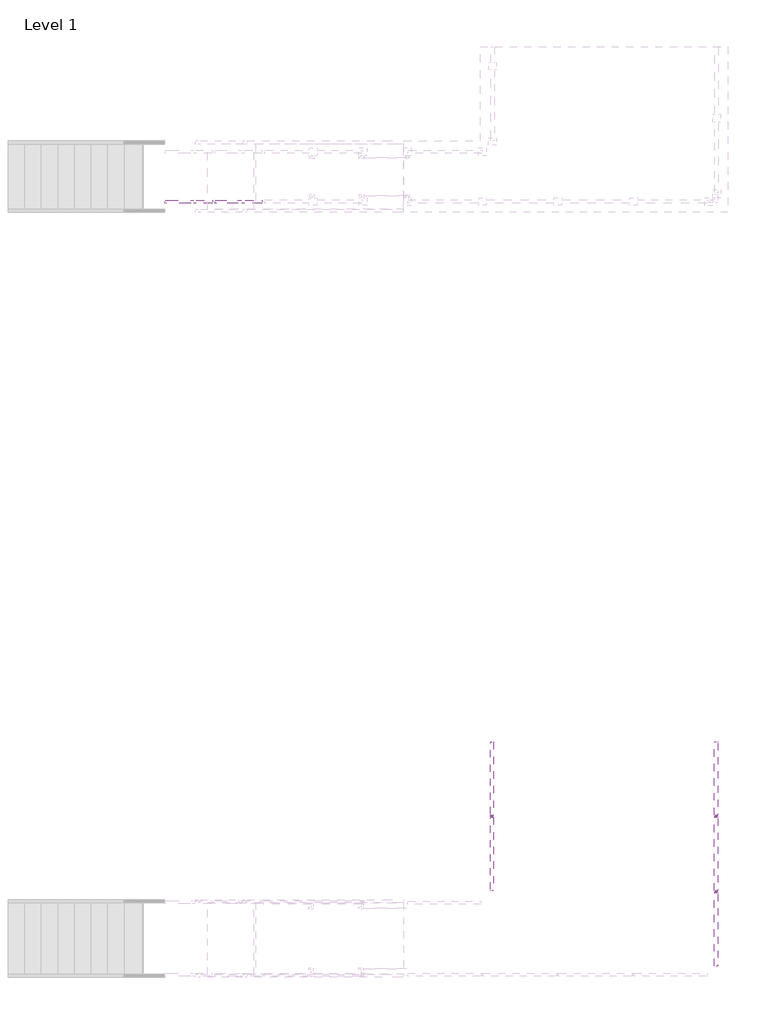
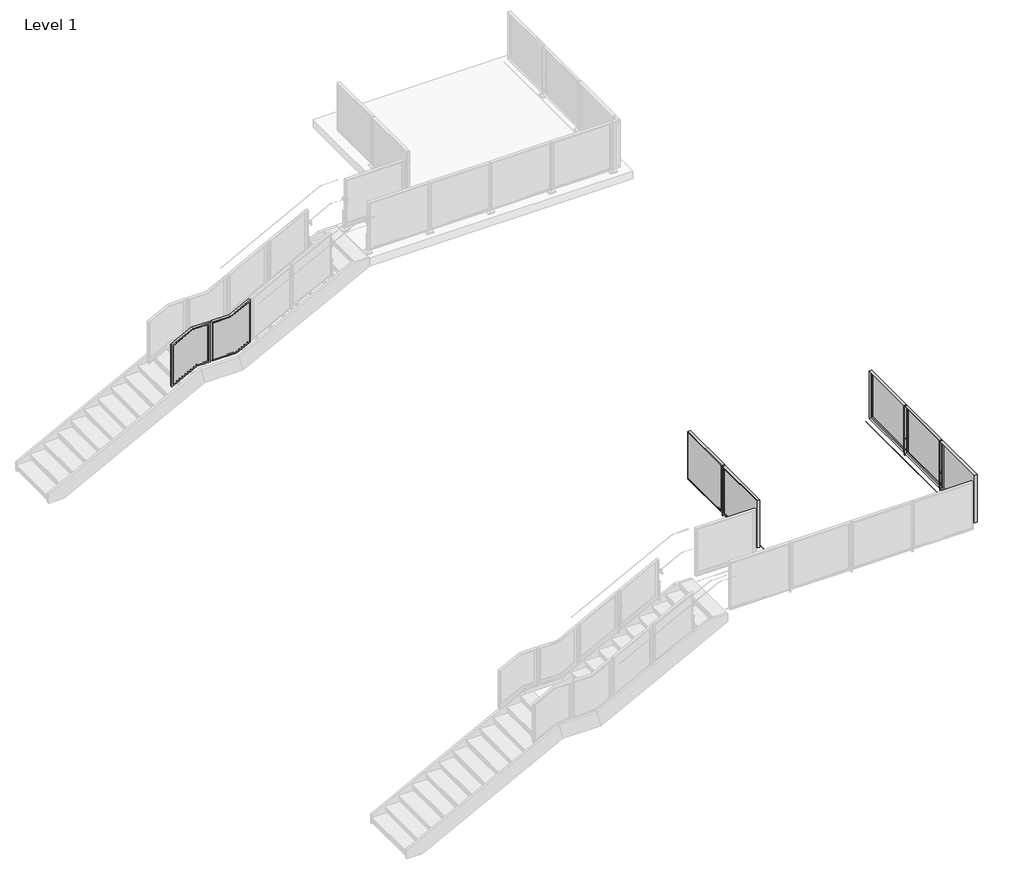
# One storey, part 13 of 37: 4 railings.
"""IFC4 building model written with IfcOpenShell, lengths in millimetres."""

from ifc_helpers import new_model, si_unit, point, frame, frame_2d, origin, place, context, project, spatial, polyline, circle_curve, trimmed, segment, composite_curve, outline, extrude, faceted_brep, transform, mapped, element, save
from ifc_brep_helpers import plane_surface, cylinder_surface, advanced_brep
from components import baluster_landing_panel_viva_frame_lower_standard_pp01_a1165722, baluster_landing_panel_viva_frame_upper_standard_pp01_df324889

model = new_model("IFC4")

# Units and contexts
model_context = context("Model", 3, world=origin())
ifc_project = project(units=[si_unit("LENGTHUNIT", "METRE", prefix="MILLI")], contexts=[model_context])

# Site, building, storey
site = spatial("IfcSite", under=ifc_project)
building = spatial("IfcBuilding", under=site)
storey = spatial("IfcBuildingStorey", under=building, Name="Level 1", Elevation=0.0)

# Railings
placement = place(None, origin())
baluster_landing_panel_viva_frame_lower_standard_pp01_shape = baluster_landing_panel_viva_frame_lower_standard_pp01_a1165722(model_context)
element("IfcRailing", 1, ObjectType="Baluster-Landing-Panel-VIVA-FRAME-Lower : Standard_PP01", at=placement, inside=storey, context=model_context, shape_type="MappedRepresentation", body=[
    mapped(baluster_landing_panel_viva_frame_lower_standard_pp01_shape, transform((-11484.6935302, -18462.3569876, 1733.4542898), x_axis=(0.0, 1.0, 0.0), y_axis=(-1.0, 0.0, 0.0), z_axis=(0.0, 0.0, 1.0))),
])
baluster_landing_panel_viva_frame_upper_standard_pp01_shape = baluster_landing_panel_viva_frame_upper_standard_pp01_df324889(model_context)
element("IfcRailing", 2, ObjectType="Baluster-Landing-Panel-VIVA-FRAME-Upper : Standard_PP01", at=placement, inside=storey, context=model_context, shape_type="MappedRepresentation", body=[
    mapped(baluster_landing_panel_viva_frame_upper_standard_pp01_shape, transform((-10816.5849384, -18509.9739095, 1736.2385299), x_axis=(0.0, 1.0, 0.0), y_axis=(-1.0, 0.0, 0.0), z_axis=(0.0, 0.0, 1.0))),
])
element("IfcRailing", 3, ObjectType="Metal-Panel-VIVA-FRAME-Slab-Top-Weld-Straight", at=placement, inside=storey, context=model_context, shape_type="SolidModel", body=[
    extrude(outline(composite_curve([segment(trimmed(circle_curve(frame_2d((3047.746, -5892.5438448)), 0.254), [point((3047.746, -5892.2898448))], [point((3047.746, -5892.7978448))], False, "CARTESIAN"), True, "CONTINUOUS"), segment(trimmed(circle_curve(frame_2d((3047.746, -5892.5438448)), 0.254), [point((3047.746, -5892.7978448))], [point((3047.746, -5892.2898448))], False, "CARTESIAN"), True, "CONTINUOUS")], self_intersect=False)), frame((0.0, -30035.206939, 0.0), z_axis=(0.0, 1.0, 0.0), x_axis=(0.0, 0.0, 1.0)), (0.0, 0.0, 1.0), 2540.0),
    extrude(outline(composite_curve([segment(trimmed(circle_curve(frame_2d((3047.746, -5892.5438448)), 0.254), [point((3047.746, -5892.2898448))], [point((3047.746, -5892.7978448))], False, "CARTESIAN"), True, "CONTINUOUS"), segment(trimmed(circle_curve(frame_2d((3047.746, -5892.5438448)), 0.254), [point((3047.746, -5892.7978448))], [point((3047.746, -5892.2898448))], False, "CARTESIAN"), True, "CONTINUOUS")], self_intersect=False)), frame((0.0, -30035.206939, 0.0), z_axis=(0.0, 1.0, 0.0), x_axis=(0.0, 0.0, 1.0)), (0.0, 0.0, 1.0), 2540.0),
    extrude(outline(polyline([(-6015.3542448, -28724.380482), (-6015.3542448, -27536.0333959), (-6012.3542448, -27536.0333959), (-6012.3542448, -28724.380482), (-6015.3542448, -28724.380482)])), frame((0.0, 0.0, 3124.1959569), z_axis=(0.0, 0.0, 1.0), x_axis=(1.0, 0.0, 0.0)), (0.0, 0.0, 1.0), 990.5826861),
    faceted_brep([(-6015.3542448, -28749.780482, 4140.1786431), (-6015.3542448, -27510.6333959, 4140.1786431), (-6015.3542448, -27510.6333959, 3098.7959569), (-6015.3542448, -28749.780482, 3098.7959569), (-6015.3542448, -28724.380482, 4114.7786431), (-6015.3542448, -28724.380482, 3124.1959569), (-6015.3542448, -27536.0333959, 3124.1959569), (-6015.3542448, -27536.0333959, 4114.7786431), (-6012.3542448, -28724.380482, 3124.1959569), (-6012.3542448, -27536.0333959, 3124.1959569), (-6012.3542448, -27536.0333959, 4114.7786431), (-6012.3542448, -28724.380482, 4114.7786431), (-5961.5542448, -28743.786082, 3104.7903569), (-5961.5542448, -27516.6277959, 3104.7903569), (-5992.3644448, -27516.6277959, 3104.7903569), (-5992.3644448, -28743.786082, 3104.7903569), (-5961.5542448, -27516.6277959, 4134.1842431), (-5992.3644448, -27516.6277959, 4134.1842431), (-5992.3644448, -28743.786082, 4134.1842431), (-5961.5542448, -28743.786082, 4134.1842431), (-5961.5542448, -27510.6333959, 3098.7959569), (-5961.5542448, -27510.6333959, 4140.1786431), (-5961.5542448, -28749.780482, 4140.1786431), (-5961.5542448, -28749.780482, 3098.7959569), (-6012.3542448, -28698.980482, 4089.3786431), (-6012.3542448, -28698.980482, 3149.5959569), (-6012.3542448, -27561.4333959, 3149.5959569), (-6012.3542448, -27561.4333959, 4089.3786431), (-5992.3644448, -27561.4333959, 3149.5959569), (-5992.3644448, -28698.980482, 3149.5959569), (-5992.3644448, -28698.980482, 4089.3786431), (-5992.3644448, -27561.4333959, 4089.3786431)], [[[0, 1, 2, 3], [4, 5, 6, 7]], [[5, 8, 9, 6]], [[6, 9, 10, 7]], [[7, 10, 11, 4]], [[4, 11, 8, 5]], [[12, 13, 14, 15]], [[13, 16, 17, 14]], [[15, 18, 19, 12]], [[20, 21, 22, 23], [12, 19, 16, 13]], [[23, 22, 0, 3]], [[23, 3, 2, 20]], [[2, 1, 21, 20]], [[22, 21, 1, 0]], [[11, 10, 9, 8], [24, 25, 26, 27]], [[14, 17, 18, 15], [28, 29, 30, 31]], [[18, 17, 16, 19]], [[27, 31, 30, 24]], [[26, 28, 31, 27]], [[25, 29, 28, 26]], [[24, 30, 29, 25]]]),
    advanced_brep(
    [(-5988.4542448, -28791.394339, 3178.1496), (-5988.4542448, -28791.394339, 3187.7), (-5988.4542448, -28791.394339, 3197.2504), (-5988.4542448, -28786.619139, 3178.1496), (-5988.4542448, -28786.619139, 3197.2504), (-5988.4542448, -28786.619139, 3182.9248), (-5988.4542448, -28786.619139, 3192.4752), (-5988.4542448, -28743.794739, 3182.9248), (-5988.4542448, -28743.794739, 3192.4752), (-5988.4542448, -28743.794739, 3178.1496), (-5988.4542448, -28743.794739, 3197.2504), (-5988.4542448, -28739.019539, 3178.1496), (-5988.4542448, -28739.019539, 3197.2504), (-5988.4542448, -28739.019539, 3187.7)],
    [
        (0, 1),
        (1, 2),
        (2, 0, circle_curve(frame((-5988.4542448, -28791.394339, 3187.7), z_axis=(0.0, -1.0, 0.0), x_axis=(0.0, 0.0, 1.0)), 9.5504)),
        (0, 2, circle_curve(frame((-5988.4542448, -28791.394339, 3187.7), z_axis=(0.0, -1.0, 0.0), x_axis=(0.0, 0.0, 1.0)), 9.5504)),
        (3, 0),
        (2, 4),
        (4, 3, circle_curve(frame((-5988.4542448, -28786.619139, 3187.7), z_axis=(0.0, -1.0, 0.0), x_axis=(0.0, 0.0, 1.0)), 9.5504)),
        (3, 4, circle_curve(frame((-5988.4542448, -28786.619139, 3187.7), z_axis=(0.0, -1.0, 0.0), x_axis=(0.0, 0.0, 1.0)), 9.5504)),
        (5, 3),
        (4, 6),
        (6, 5, circle_curve(frame((-5988.4542448, -28786.619139, 3187.7), z_axis=(0.0, -1.0, 0.0), x_axis=(0.0, 0.0, 1.0)), 4.7752)),
        (5, 6, circle_curve(frame((-5988.4542448, -28786.619139, 3187.7), z_axis=(0.0, -1.0, 0.0), x_axis=(0.0, 0.0, 1.0)), 4.7752)),
        (7, 5),
        (6, 8),
        (8, 7, circle_curve(frame((-5988.4542448, -28743.794739, 3187.7), z_axis=(0.0, -1.0, 0.0), x_axis=(0.0, 0.0, 1.0)), 4.7752)),
        (7, 8, circle_curve(frame((-5988.4542448, -28743.794739, 3187.7), z_axis=(0.0, -1.0, 0.0), x_axis=(0.0, 0.0, 1.0)), 4.7752)),
        (9, 7),
        (8, 10),
        (10, 9, circle_curve(frame((-5988.4542448, -28743.794739, 3187.7), z_axis=(0.0, -1.0, 0.0), x_axis=(0.0, 0.0, 1.0)), 9.5504)),
        (9, 10, circle_curve(frame((-5988.4542448, -28743.794739, 3187.7), z_axis=(0.0, -1.0, 0.0), x_axis=(0.0, 0.0, 1.0)), 9.5504)),
        (11, 9),
        (10, 12),
        (12, 11, circle_curve(frame((-5988.4542448, -28739.019539, 3187.7), z_axis=(0.0, -1.0, 0.0), x_axis=(0.0, 0.0, 1.0)), 9.5504)),
        (11, 12, circle_curve(frame((-5988.4542448, -28739.019539, 3187.7), z_axis=(0.0, -1.0, 0.0), x_axis=(0.0, 0.0, 1.0)), 9.5504)),
        (13, 11),
        (12, 13),
    ],
    [
        plane_surface(frame((-5988.4542448, -28791.394339, 3187.7), z_axis=(0.0, -1.0, 0.0), x_axis=(0.0, 0.0, 1.0))),
        cylinder_surface(frame((-5988.4542448, -32182.9746961, 3187.7), z_axis=(0.0, 1.0, 0.0), x_axis=(0.0, 0.0, 1.0)), 9.5504),
        plane_surface(frame((-5988.4542448, -28786.619139, 3187.7), z_axis=(0.0, 1.0, 0.0), x_axis=(0.0, 0.0, 1.0))),
        cylinder_surface(frame((-5988.4542448, -32182.9746961, 3187.7), z_axis=(0.0, 1.0, 0.0), x_axis=(0.0, 0.0, 1.0)), 4.7752),
        plane_surface(frame((-5988.4542448, -28743.794739, 3187.7), z_axis=(0.0, -1.0, 0.0), x_axis=(0.0, 0.0, 1.0))),
        plane_surface(frame((-5988.4542448, -28739.019539, 3187.7), z_axis=(0.0, 1.0, 0.0), x_axis=(0.0, 0.0, 1.0))),
    ],
    [
        (0, [[1, 2, 3]]),
        (0, [[-2, -1, 4]]),
        (1, [[5, -3, 6, 7]]),
        (1, [[-6, -4, -5, 8]]),
        (2, [[9, -7, 10, 11]]),
        (2, [[-10, -8, -9, 12]]),
        (3, [[13, -11, 14, 15]]),
        (3, [[-14, -12, -13, 16]]),
        (4, [[17, -15, 18, 19]]),
        (4, [[-18, -16, -17, 20]]),
        (1, [[21, -19, 22, 23]]),
        (1, [[-22, -20, -21, 24]]),
        (5, [[25, -23, 26]]),
        (5, [[-26, -24, -25]]),
    ],
),
    advanced_brep(
    [(-5988.4542448, -28791.394339, 3419.4496), (-5988.4542448, -28791.394339, 3429.0), (-5988.4542448, -28791.394339, 3438.5504), (-5988.4542448, -28786.619139, 3419.4496), (-5988.4542448, -28786.619139, 3438.5504), (-5988.4542448, -28786.619139, 3424.2248), (-5988.4542448, -28786.619139, 3433.7752), (-5988.4542448, -28743.794739, 3424.2248), (-5988.4542448, -28743.794739, 3433.7752), (-5988.4542448, -28743.794739, 3419.4496), (-5988.4542448, -28743.794739, 3438.5504), (-5988.4542448, -28739.019539, 3419.4496), (-5988.4542448, -28739.019539, 3438.5504), (-5988.4542448, -28739.019539, 3429.0)],
    [
        (0, 1),
        (1, 2),
        (2, 0, circle_curve(frame((-5988.4542448, -28791.394339, 3429.0), z_axis=(0.0, -1.0, 0.0), x_axis=(0.0, 0.0, 1.0)), 9.5504)),
        (0, 2, circle_curve(frame((-5988.4542448, -28791.394339, 3429.0), z_axis=(0.0, -1.0, 0.0), x_axis=(0.0, 0.0, 1.0)), 9.5504)),
        (3, 0),
        (2, 4),
        (4, 3, circle_curve(frame((-5988.4542448, -28786.619139, 3429.0), z_axis=(0.0, -1.0, 0.0), x_axis=(0.0, 0.0, 1.0)), 9.5504)),
        (3, 4, circle_curve(frame((-5988.4542448, -28786.619139, 3429.0), z_axis=(0.0, -1.0, 0.0), x_axis=(0.0, 0.0, 1.0)), 9.5504)),
        (5, 3),
        (4, 6),
        (6, 5, circle_curve(frame((-5988.4542448, -28786.619139, 3429.0), z_axis=(0.0, -1.0, 0.0), x_axis=(0.0, 0.0, 1.0)), 4.7752)),
        (5, 6, circle_curve(frame((-5988.4542448, -28786.619139, 3429.0), z_axis=(0.0, -1.0, 0.0), x_axis=(0.0, 0.0, 1.0)), 4.7752)),
        (7, 5),
        (6, 8),
        (8, 7, circle_curve(frame((-5988.4542448, -28743.794739, 3429.0), z_axis=(0.0, -1.0, 0.0), x_axis=(0.0, 0.0, 1.0)), 4.7752)),
        (7, 8, circle_curve(frame((-5988.4542448, -28743.794739, 3429.0), z_axis=(0.0, -1.0, 0.0), x_axis=(0.0, 0.0, 1.0)), 4.7752)),
        (9, 7),
        (8, 10),
        (10, 9, circle_curve(frame((-5988.4542448, -28743.794739, 3429.0), z_axis=(0.0, -1.0, 0.0), x_axis=(0.0, 0.0, 1.0)), 9.5504)),
        (9, 10, circle_curve(frame((-5988.4542448, -28743.794739, 3429.0), z_axis=(0.0, -1.0, 0.0), x_axis=(0.0, 0.0, 1.0)), 9.5504)),
        (11, 9),
        (10, 12),
        (12, 11, circle_curve(frame((-5988.4542448, -28739.019539, 3429.0), z_axis=(0.0, -1.0, 0.0), x_axis=(0.0, 0.0, 1.0)), 9.5504)),
        (11, 12, circle_curve(frame((-5988.4542448, -28739.019539, 3429.0), z_axis=(0.0, -1.0, 0.0), x_axis=(0.0, 0.0, 1.0)), 9.5504)),
        (13, 11),
        (12, 13),
    ],
    [
        plane_surface(frame((-5988.4542448, -28791.394339, 3429.0), z_axis=(0.0, -1.0, 0.0), x_axis=(0.0, 0.0, 1.0))),
        cylinder_surface(frame((-5988.4542448, -32182.9746961, 3429.0), z_axis=(0.0, 1.0, 0.0), x_axis=(0.0, 0.0, 1.0)), 9.5504),
        plane_surface(frame((-5988.4542448, -28786.619139, 3429.0), z_axis=(0.0, 1.0, 0.0), x_axis=(0.0, 0.0, 1.0))),
        cylinder_surface(frame((-5988.4542448, -32182.9746961, 3429.0), z_axis=(0.0, 1.0, 0.0), x_axis=(0.0, 0.0, 1.0)), 4.7752),
        plane_surface(frame((-5988.4542448, -28743.794739, 3429.0), z_axis=(0.0, -1.0, 0.0), x_axis=(0.0, 0.0, 1.0))),
        plane_surface(frame((-5988.4542448, -28739.019539, 3429.0), z_axis=(0.0, 1.0, 0.0), x_axis=(0.0, 0.0, 1.0))),
    ],
    [
        (0, [[1, 2, 3]]),
        (0, [[-2, -1, 4]]),
        (1, [[5, -3, 6, 7]]),
        (1, [[-6, -4, -5, 8]]),
        (2, [[9, -7, 10, 11]]),
        (2, [[-10, -8, -9, 12]]),
        (3, [[13, -11, 14, 15]]),
        (3, [[-14, -12, -13, 16]]),
        (4, [[17, -15, 18, 19]]),
        (4, [[-18, -16, -17, 20]]),
        (1, [[21, -19, 22, 23]]),
        (1, [[-22, -20, -21, 24]]),
        (5, [[25, -23, 26]]),
        (5, [[-26, -24, -25]]),
    ],
),
    extrude(outline(polyline([(-5966.2292448, -28773.1465306), (-6010.6792448, -28773.1465306), (-6010.6792448, -28757.2673473), (-5966.2292448, -28757.2673473), (-5966.2292448, -28773.1465306)])), frame((0.0, 0.0, 3048.0), z_axis=(0.0, 0.0, 1.0), x_axis=(1.0, 0.0, 0.0)), (0.0, 0.0, 1.0), 406.4),
    extrude(outline(polyline([(-6015.3542448, -29994.380482), (-6015.3542448, -28806.0333959), (-6012.3542448, -28806.0333959), (-6012.3542448, -29994.380482), (-6015.3542448, -29994.380482)])), frame((0.0, 0.0, 3124.1959569), z_axis=(0.0, 0.0, 1.0), x_axis=(1.0, 0.0, 0.0)), (0.0, 0.0, 1.0), 990.5826861),
    faceted_brep([(-6015.3542448, -30019.780482, 4140.1786431), (-6015.3542448, -28780.6333959, 4140.1786431), (-6015.3542448, -28780.6333959, 3098.7959569), (-6015.3542448, -30019.780482, 3098.7959569), (-6015.3542448, -29994.380482, 4114.7786431), (-6015.3542448, -29994.380482, 3124.1959569), (-6015.3542448, -28806.0333959, 3124.1959569), (-6015.3542448, -28806.0333959, 4114.7786431), (-6012.3542448, -29994.380482, 3124.1959569), (-6012.3542448, -28806.0333959, 3124.1959569), (-6012.3542448, -28806.0333959, 4114.7786431), (-6012.3542448, -29994.380482, 4114.7786431), (-5961.5542448, -30013.786082, 3104.7903569), (-5961.5542448, -28786.6277959, 3104.7903569), (-5992.3644448, -28786.6277959, 3104.7903569), (-5992.3644448, -30013.786082, 3104.7903569), (-5961.5542448, -28786.6277959, 4134.1842431), (-5992.3644448, -28786.6277959, 4134.1842431), (-5992.3644448, -30013.786082, 4134.1842431), (-5961.5542448, -30013.786082, 4134.1842431), (-5961.5542448, -28780.6333959, 3098.7959569), (-5961.5542448, -28780.6333959, 4140.1786431), (-5961.5542448, -30019.780482, 4140.1786431), (-5961.5542448, -30019.780482, 3098.7959569), (-6012.3542448, -29968.980482, 4089.3786431), (-6012.3542448, -29968.980482, 3149.5959569), (-6012.3542448, -28831.4333959, 3149.5959569), (-6012.3542448, -28831.4333959, 4089.3786431), (-5992.3644448, -28831.4333959, 3149.5959569), (-5992.3644448, -29968.980482, 3149.5959569), (-5992.3644448, -29968.980482, 4089.3786431), (-5992.3644448, -28831.4333959, 4089.3786431)], [[[0, 1, 2, 3], [4, 5, 6, 7]], [[5, 8, 9, 6]], [[6, 9, 10, 7]], [[7, 10, 11, 4]], [[4, 11, 8, 5]], [[12, 13, 14, 15]], [[13, 16, 17, 14]], [[15, 18, 19, 12]], [[20, 21, 22, 23], [12, 19, 16, 13]], [[23, 22, 0, 3]], [[23, 3, 2, 20]], [[2, 1, 21, 20]], [[22, 21, 1, 0]], [[11, 10, 9, 8], [24, 25, 26, 27]], [[14, 17, 18, 15], [28, 29, 30, 31]], [[18, 17, 16, 19]], [[27, 31, 30, 24]], [[26, 28, 31, 27]], [[25, 29, 28, 26]], [[24, 30, 29, 25]]]),
])
element("IfcRailing", 4, ObjectType="Metal-Panel-VIVA-FRAME-Slab-Top-Weld-Straight", at=placement, inside=storey, context=model_context, shape_type="SolidModel", body=[
    extrude(outline(composite_curve([segment(trimmed(circle_curve(frame_2d((3047.746, -2309.2266913)), 0.254), [point((3047.746, -2308.9726913))], [point((3047.746, -2309.4806913))], False, "CARTESIAN"), True, "CONTINUOUS"), segment(trimmed(circle_curve(frame_2d((3047.746, -2309.2266913)), 0.254), [point((3047.746, -2309.4806913))], [point((3047.746, -2308.9726913))], False, "CARTESIAN"), True, "CONTINUOUS")], self_intersect=False)), frame((0.0, -31301.8140064, 0.0), z_axis=(0.0, 1.0, 0.0), x_axis=(0.0, 0.0, 1.0)), (0.0, 0.0, 1.0), 3810.0),
    extrude(outline(composite_curve([segment(trimmed(circle_curve(frame_2d((3047.746, -2309.2266913)), 0.254), [point((3047.746, -2308.9726913))], [point((3047.746, -2309.4806913))], False, "CARTESIAN"), True, "CONTINUOUS"), segment(trimmed(circle_curve(frame_2d((3047.746, -2309.2266913)), 0.254), [point((3047.746, -2309.4806913))], [point((3047.746, -2308.9726913))], False, "CARTESIAN"), True, "CONTINUOUS")], self_intersect=False)), frame((0.0, -31301.8140064, 0.0), z_axis=(0.0, 1.0, 0.0), x_axis=(0.0, 0.0, 1.0)), (0.0, 0.0, 1.0), 3810.0),
    extrude(outline(polyline([(-2186.4162913, -28720.9875494), (-2189.4162913, -28720.9875494), (-2189.4162913, -27532.6404633), (-2186.4162913, -27532.6404633), (-2186.4162913, -28720.9875494)])), frame((0.0, 0.0, 3124.1959569), z_axis=(0.0, 0.0, 1.0), x_axis=(1.0, 0.0, 0.0)), (0.0, 0.0, 1.0), 990.5826861),
    faceted_brep([(-2186.4162913, -28746.3875494, 4140.1786431), (-2186.4162913, -28746.3875494, 3098.7959569), (-2186.4162913, -27507.2404633, 3098.7959569), (-2186.4162913, -27507.2404633, 4140.1786431), (-2186.4162913, -28720.9875494, 4114.7786431), (-2186.4162913, -27532.6404633, 4114.7786431), (-2186.4162913, -27532.6404633, 3124.1959569), (-2186.4162913, -28720.9875494, 3124.1959569), (-2189.4162913, -27532.6404633, 3124.1959569), (-2189.4162913, -28720.9875494, 3124.1959569), (-2189.4162913, -27532.6404633, 4114.7786431), (-2189.4162913, -28720.9875494, 4114.7786431), (-2240.2162913, -28740.3931494, 3104.7903569), (-2209.4060913, -28740.3931494, 3104.7903569), (-2209.4060913, -27513.2348633, 3104.7903569), (-2240.2162913, -27513.2348633, 3104.7903569), (-2209.4060913, -27513.2348633, 4134.1842431), (-2240.2162913, -27513.2348633, 4134.1842431), (-2240.2162913, -28740.3931494, 4134.1842431), (-2209.4060913, -28740.3931494, 4134.1842431), (-2240.2162913, -27507.2404633, 3098.7959569), (-2240.2162913, -28746.3875494, 3098.7959569), (-2240.2162913, -28746.3875494, 4140.1786431), (-2240.2162913, -27507.2404633, 4140.1786431), (-2189.4162913, -28695.5875494, 4089.3786431), (-2189.4162913, -27558.0404633, 4089.3786431), (-2189.4162913, -27558.0404633, 3149.5959569), (-2189.4162913, -28695.5875494, 3149.5959569), (-2209.4060913, -27558.0404633, 3149.5959569), (-2209.4060913, -27558.0404633, 4089.3786431), (-2209.4060913, -28695.5875494, 4089.3786431), (-2209.4060913, -28695.5875494, 3149.5959569)], [[[0, 1, 2, 3], [4, 5, 6, 7]], [[7, 6, 8, 9]], [[6, 5, 10, 8]], [[5, 4, 11, 10]], [[4, 7, 9, 11]], [[12, 13, 14, 15]], [[15, 14, 16, 17]], [[13, 12, 18, 19]], [[20, 21, 22, 23], [12, 15, 17, 18]], [[21, 1, 0, 22]], [[21, 20, 2, 1]], [[2, 20, 23, 3]], [[22, 0, 3, 23]], [[11, 9, 8, 10], [24, 25, 26, 27]], [[14, 13, 19, 16], [28, 29, 30, 31]], [[19, 18, 17, 16]], [[25, 24, 30, 29]], [[26, 25, 29, 28]], [[27, 26, 28, 31]], [[24, 27, 31, 30]]]),
    advanced_brep(
    [(-2213.3162913, -28788.0014064, 3178.1496), (-2213.3162913, -28788.0014064, 3197.2504), (-2213.3162913, -28788.0014064, 3187.7), (-2213.3162913, -28783.2262064, 3178.1496), (-2213.3162913, -28783.2262064, 3197.2504), (-2213.3162913, -28783.2262064, 3182.9248), (-2213.3162913, -28783.2262064, 3192.4752), (-2213.3162913, -28740.4018064, 3182.9248), (-2213.3162913, -28740.4018064, 3192.4752), (-2213.3162913, -28740.4018064, 3178.1496), (-2213.3162913, -28740.4018064, 3197.2504), (-2213.3162913, -28735.6266064, 3178.1496), (-2213.3162913, -28735.6266064, 3197.2504), (-2213.3162913, -28735.6266064, 3187.7)],
    [
        (0, 1, circle_curve(frame((-2213.3162913, -28788.0014064, 3187.7), z_axis=(0.0, -1.0, 0.0), x_axis=(0.0, 0.0, 1.0)), 9.5504)),
        (1, 2),
        (2, 0),
        (1, 0, circle_curve(frame((-2213.3162913, -28788.0014064, 3187.7), z_axis=(0.0, -1.0, 0.0), x_axis=(0.0, 0.0, 1.0)), 9.5504)),
        (3, 4, circle_curve(frame((-2213.3162913, -28783.2262064, 3187.7), z_axis=(0.0, -1.0, 0.0), x_axis=(0.0, 0.0, 1.0)), 9.5504)),
        (4, 1),
        (0, 3),
        (4, 3, circle_curve(frame((-2213.3162913, -28783.2262064, 3187.7), z_axis=(0.0, -1.0, 0.0), x_axis=(0.0, 0.0, 1.0)), 9.5504)),
        (5, 6, circle_curve(frame((-2213.3162913, -28783.2262064, 3187.7), z_axis=(0.0, -1.0, 0.0), x_axis=(0.0, 0.0, 1.0)), 4.7752)),
        (6, 4),
        (3, 5),
        (6, 5, circle_curve(frame((-2213.3162913, -28783.2262064, 3187.7), z_axis=(0.0, -1.0, 0.0), x_axis=(0.0, 0.0, 1.0)), 4.7752)),
        (7, 8, circle_curve(frame((-2213.3162913, -28740.4018064, 3187.7), z_axis=(0.0, -1.0, 0.0), x_axis=(0.0, 0.0, 1.0)), 4.7752)),
        (8, 6),
        (5, 7),
        (8, 7, circle_curve(frame((-2213.3162913, -28740.4018064, 3187.7), z_axis=(0.0, -1.0, 0.0), x_axis=(0.0, 0.0, 1.0)), 4.7752)),
        (9, 10, circle_curve(frame((-2213.3162913, -28740.4018064, 3187.7), z_axis=(0.0, -1.0, 0.0), x_axis=(0.0, 0.0, 1.0)), 9.5504)),
        (10, 8),
        (7, 9),
        (10, 9, circle_curve(frame((-2213.3162913, -28740.4018064, 3187.7), z_axis=(0.0, -1.0, 0.0), x_axis=(0.0, 0.0, 1.0)), 9.5504)),
        (11, 12, circle_curve(frame((-2213.3162913, -28735.6266064, 3187.7), z_axis=(0.0, -1.0, 0.0), x_axis=(0.0, 0.0, 1.0)), 9.5504)),
        (12, 10),
        (9, 11),
        (12, 11, circle_curve(frame((-2213.3162913, -28735.6266064, 3187.7), z_axis=(0.0, -1.0, 0.0), x_axis=(0.0, 0.0, 1.0)), 9.5504)),
        (13, 12),
        (11, 13),
    ],
    [
        plane_surface(frame((-2213.3162913, -28788.0014064, 3187.7), z_axis=(0.0, -1.0, 0.0), x_axis=(0.0, 0.0, 1.0))),
        cylinder_surface(frame((-2213.3162913, -32179.5817635, 3187.7), z_axis=(0.0, 1.0, 0.0), x_axis=(0.0, 0.0, 1.0)), 9.5504),
        plane_surface(frame((-2213.3162913, -28783.2262064, 3187.7), z_axis=(0.0, 1.0, 0.0), x_axis=(0.0, 0.0, 1.0))),
        cylinder_surface(frame((-2213.3162913, -32179.5817635, 3187.7), z_axis=(0.0, 1.0, 0.0), x_axis=(0.0, 0.0, 1.0)), 4.7752),
        plane_surface(frame((-2213.3162913, -28740.4018064, 3187.7), z_axis=(0.0, -1.0, 0.0), x_axis=(0.0, 0.0, 1.0))),
        plane_surface(frame((-2213.3162913, -28735.6266064, 3187.7), z_axis=(0.0, 1.0, 0.0), x_axis=(0.0, 0.0, 1.0))),
    ],
    [
        (0, [[1, 2, 3]]),
        (0, [[4, -3, -2]]),
        (1, [[5, 6, -1, 7]]),
        (1, [[8, -7, -4, -6]]),
        (2, [[9, 10, -5, 11]]),
        (2, [[12, -11, -8, -10]]),
        (3, [[13, 14, -9, 15]]),
        (3, [[16, -15, -12, -14]]),
        (4, [[17, 18, -13, 19]]),
        (4, [[20, -19, -16, -18]]),
        (1, [[21, 22, -17, 23]]),
        (1, [[24, -23, -20, -22]]),
        (5, [[25, -21, 26]]),
        (5, [[-26, -24, -25]]),
    ],
),
    advanced_brep(
    [(-2213.3162913, -28788.0014064, 3419.4496), (-2213.3162913, -28788.0014064, 3438.5504), (-2213.3162913, -28788.0014064, 3429.0), (-2213.3162913, -28783.2262064, 3419.4496), (-2213.3162913, -28783.2262064, 3438.5504), (-2213.3162913, -28783.2262064, 3424.2248), (-2213.3162913, -28783.2262064, 3433.7752), (-2213.3162913, -28740.4018064, 3424.2248), (-2213.3162913, -28740.4018064, 3433.7752), (-2213.3162913, -28740.4018064, 3419.4496), (-2213.3162913, -28740.4018064, 3438.5504), (-2213.3162913, -28735.6266064, 3419.4496), (-2213.3162913, -28735.6266064, 3438.5504), (-2213.3162913, -28735.6266064, 3429.0)],
    [
        (0, 1, circle_curve(frame((-2213.3162913, -28788.0014064, 3429.0), z_axis=(0.0, -1.0, 0.0), x_axis=(0.0, 0.0, 1.0)), 9.5504)),
        (1, 2),
        (2, 0),
        (1, 0, circle_curve(frame((-2213.3162913, -28788.0014064, 3429.0), z_axis=(0.0, -1.0, 0.0), x_axis=(0.0, 0.0, 1.0)), 9.5504)),
        (3, 4, circle_curve(frame((-2213.3162913, -28783.2262064, 3429.0), z_axis=(0.0, -1.0, 0.0), x_axis=(0.0, 0.0, 1.0)), 9.5504)),
        (4, 1),
        (0, 3),
        (4, 3, circle_curve(frame((-2213.3162913, -28783.2262064, 3429.0), z_axis=(0.0, -1.0, 0.0), x_axis=(0.0, 0.0, 1.0)), 9.5504)),
        (5, 6, circle_curve(frame((-2213.3162913, -28783.2262064, 3429.0), z_axis=(0.0, -1.0, 0.0), x_axis=(0.0, 0.0, 1.0)), 4.7752)),
        (6, 4),
        (3, 5),
        (6, 5, circle_curve(frame((-2213.3162913, -28783.2262064, 3429.0), z_axis=(0.0, -1.0, 0.0), x_axis=(0.0, 0.0, 1.0)), 4.7752)),
        (7, 8, circle_curve(frame((-2213.3162913, -28740.4018064, 3429.0), z_axis=(0.0, -1.0, 0.0), x_axis=(0.0, 0.0, 1.0)), 4.7752)),
        (8, 6),
        (5, 7),
        (8, 7, circle_curve(frame((-2213.3162913, -28740.4018064, 3429.0), z_axis=(0.0, -1.0, 0.0), x_axis=(0.0, 0.0, 1.0)), 4.7752)),
        (9, 10, circle_curve(frame((-2213.3162913, -28740.4018064, 3429.0), z_axis=(0.0, -1.0, 0.0), x_axis=(0.0, 0.0, 1.0)), 9.5504)),
        (10, 8),
        (7, 9),
        (10, 9, circle_curve(frame((-2213.3162913, -28740.4018064, 3429.0), z_axis=(0.0, -1.0, 0.0), x_axis=(0.0, 0.0, 1.0)), 9.5504)),
        (11, 12, circle_curve(frame((-2213.3162913, -28735.6266064, 3429.0), z_axis=(0.0, -1.0, 0.0), x_axis=(0.0, 0.0, 1.0)), 9.5504)),
        (12, 10),
        (9, 11),
        (12, 11, circle_curve(frame((-2213.3162913, -28735.6266064, 3429.0), z_axis=(0.0, -1.0, 0.0), x_axis=(0.0, 0.0, 1.0)), 9.5504)),
        (13, 12),
        (11, 13),
    ],
    [
        plane_surface(frame((-2213.3162913, -28788.0014064, 3429.0), z_axis=(0.0, -1.0, 0.0), x_axis=(0.0, 0.0, 1.0))),
        cylinder_surface(frame((-2213.3162913, -32179.5817635, 3429.0), z_axis=(0.0, 1.0, 0.0), x_axis=(0.0, 0.0, 1.0)), 9.5504),
        plane_surface(frame((-2213.3162913, -28783.2262064, 3429.0), z_axis=(0.0, 1.0, 0.0), x_axis=(0.0, 0.0, 1.0))),
        cylinder_surface(frame((-2213.3162913, -32179.5817635, 3429.0), z_axis=(0.0, 1.0, 0.0), x_axis=(0.0, 0.0, 1.0)), 4.7752),
        plane_surface(frame((-2213.3162913, -28740.4018064, 3429.0), z_axis=(0.0, -1.0, 0.0), x_axis=(0.0, 0.0, 1.0))),
        plane_surface(frame((-2213.3162913, -28735.6266064, 3429.0), z_axis=(0.0, 1.0, 0.0), x_axis=(0.0, 0.0, 1.0))),
    ],
    [
        (0, [[1, 2, 3]]),
        (0, [[4, -3, -2]]),
        (1, [[5, 6, -1, 7]]),
        (1, [[8, -7, -4, -6]]),
        (2, [[9, 10, -5, 11]]),
        (2, [[12, -11, -8, -10]]),
        (3, [[13, 14, -9, 15]]),
        (3, [[16, -15, -12, -14]]),
        (4, [[17, 18, -13, 19]]),
        (4, [[20, -19, -16, -18]]),
        (1, [[21, 22, -17, 23]]),
        (1, [[24, -23, -20, -22]]),
        (5, [[25, -21, 26]]),
        (5, [[-26, -24, -25]]),
    ],
),
    extrude(outline(polyline([(-2235.5412913, -28769.753598), (-2235.5412913, -28753.8744147), (-2191.0912913, -28753.8744147), (-2191.0912913, -28769.753598), (-2235.5412913, -28769.753598)])), frame((0.0, 0.0, 3048.0), z_axis=(0.0, 0.0, 1.0), x_axis=(1.0, 0.0, 0.0)), (0.0, 0.0, 1.0), 406.4),
    extrude(outline(polyline([(-2186.4162913, -29990.9875494), (-2189.4162913, -29990.9875494), (-2189.4162913, -28802.6404633), (-2186.4162913, -28802.6404633), (-2186.4162913, -29990.9875494)])), frame((0.0, 0.0, 3124.1959569), z_axis=(0.0, 0.0, 1.0), x_axis=(1.0, 0.0, 0.0)), (0.0, 0.0, 1.0), 990.5826861),
    faceted_brep([(-2186.4162913, -30016.3875494, 4140.1786431), (-2186.4162913, -30016.3875494, 3098.7959569), (-2186.4162913, -28777.2404633, 3098.7959569), (-2186.4162913, -28777.2404633, 4140.1786431), (-2186.4162913, -29990.9875494, 4114.7786431), (-2186.4162913, -28802.6404633, 4114.7786431), (-2186.4162913, -28802.6404633, 3124.1959569), (-2186.4162913, -29990.9875494, 3124.1959569), (-2189.4162913, -28802.6404633, 3124.1959569), (-2189.4162913, -29990.9875494, 3124.1959569), (-2189.4162913, -28802.6404633, 4114.7786431), (-2189.4162913, -29990.9875494, 4114.7786431), (-2240.2162913, -30010.3931494, 3104.7903569), (-2209.4060913, -30010.3931494, 3104.7903569), (-2209.4060913, -28783.2348633, 3104.7903569), (-2240.2162913, -28783.2348633, 3104.7903569), (-2209.4060913, -28783.2348633, 4134.1842431), (-2240.2162913, -28783.2348633, 4134.1842431), (-2240.2162913, -30010.3931494, 4134.1842431), (-2209.4060913, -30010.3931494, 4134.1842431), (-2240.2162913, -28777.2404633, 3098.7959569), (-2240.2162913, -30016.3875494, 3098.7959569), (-2240.2162913, -30016.3875494, 4140.1786431), (-2240.2162913, -28777.2404633, 4140.1786431), (-2189.4162913, -29965.5875494, 4089.3786431), (-2189.4162913, -28828.0404633, 4089.3786431), (-2189.4162913, -28828.0404633, 3149.5959569), (-2189.4162913, -29965.5875494, 3149.5959569), (-2209.4060913, -28828.0404633, 3149.5959569), (-2209.4060913, -28828.0404633, 4089.3786431), (-2209.4060913, -29965.5875494, 4089.3786431), (-2209.4060913, -29965.5875494, 3149.5959569)], [[[0, 1, 2, 3], [4, 5, 6, 7]], [[7, 6, 8, 9]], [[6, 5, 10, 8]], [[5, 4, 11, 10]], [[4, 7, 9, 11]], [[12, 13, 14, 15]], [[15, 14, 16, 17]], [[13, 12, 18, 19]], [[20, 21, 22, 23], [12, 15, 17, 18]], [[21, 1, 0, 22]], [[21, 20, 2, 1]], [[2, 20, 23, 3]], [[22, 0, 3, 23]], [[11, 9, 8, 10], [24, 25, 26, 27]], [[14, 13, 19, 16], [28, 29, 30, 31]], [[19, 18, 17, 16]], [[25, 24, 30, 29]], [[26, 25, 29, 28]], [[27, 26, 28, 31]], [[24, 27, 31, 30]]]),
    advanced_brep(
    [(-2213.3162913, -30058.0014064, 3178.1496), (-2213.3162913, -30058.0014064, 3197.2504), (-2213.3162913, -30058.0014064, 3187.7), (-2213.3162913, -30053.2262064, 3178.1496), (-2213.3162913, -30053.2262064, 3197.2504), (-2213.3162913, -30053.2262064, 3182.9248), (-2213.3162913, -30053.2262064, 3192.4752), (-2213.3162913, -30010.4018064, 3182.9248), (-2213.3162913, -30010.4018064, 3192.4752), (-2213.3162913, -30010.4018064, 3178.1496), (-2213.3162913, -30010.4018064, 3197.2504), (-2213.3162913, -30005.6266064, 3178.1496), (-2213.3162913, -30005.6266064, 3197.2504), (-2213.3162913, -30005.6266064, 3187.7)],
    [
        (0, 1, circle_curve(frame((-2213.3162913, -30058.0014064, 3187.7), z_axis=(0.0, -1.0, 0.0), x_axis=(0.0, 0.0, 1.0)), 9.5504)),
        (1, 2),
        (2, 0),
        (1, 0, circle_curve(frame((-2213.3162913, -30058.0014064, 3187.7), z_axis=(0.0, -1.0, 0.0), x_axis=(0.0, 0.0, 1.0)), 9.5504)),
        (3, 4, circle_curve(frame((-2213.3162913, -30053.2262064, 3187.7), z_axis=(0.0, -1.0, 0.0), x_axis=(0.0, 0.0, 1.0)), 9.5504)),
        (4, 1),
        (0, 3),
        (4, 3, circle_curve(frame((-2213.3162913, -30053.2262064, 3187.7), z_axis=(0.0, -1.0, 0.0), x_axis=(0.0, 0.0, 1.0)), 9.5504)),
        (5, 6, circle_curve(frame((-2213.3162913, -30053.2262064, 3187.7), z_axis=(0.0, -1.0, 0.0), x_axis=(0.0, 0.0, 1.0)), 4.7752)),
        (6, 4),
        (3, 5),
        (6, 5, circle_curve(frame((-2213.3162913, -30053.2262064, 3187.7), z_axis=(0.0, -1.0, 0.0), x_axis=(0.0, 0.0, 1.0)), 4.7752)),
        (7, 8, circle_curve(frame((-2213.3162913, -30010.4018064, 3187.7), z_axis=(0.0, -1.0, 0.0), x_axis=(0.0, 0.0, 1.0)), 4.7752)),
        (8, 6),
        (5, 7),
        (8, 7, circle_curve(frame((-2213.3162913, -30010.4018064, 3187.7), z_axis=(0.0, -1.0, 0.0), x_axis=(0.0, 0.0, 1.0)), 4.7752)),
        (9, 10, circle_curve(frame((-2213.3162913, -30010.4018064, 3187.7), z_axis=(0.0, -1.0, 0.0), x_axis=(0.0, 0.0, 1.0)), 9.5504)),
        (10, 8),
        (7, 9),
        (10, 9, circle_curve(frame((-2213.3162913, -30010.4018064, 3187.7), z_axis=(0.0, -1.0, 0.0), x_axis=(0.0, 0.0, 1.0)), 9.5504)),
        (11, 12, circle_curve(frame((-2213.3162913, -30005.6266064, 3187.7), z_axis=(0.0, -1.0, 0.0), x_axis=(0.0, 0.0, 1.0)), 9.5504)),
        (12, 10),
        (9, 11),
        (12, 11, circle_curve(frame((-2213.3162913, -30005.6266064, 3187.7), z_axis=(0.0, -1.0, 0.0), x_axis=(0.0, 0.0, 1.0)), 9.5504)),
        (13, 12),
        (11, 13),
    ],
    [
        plane_surface(frame((-2213.3162913, -30058.0014064, 3187.7), z_axis=(0.0, -1.0, 0.0), x_axis=(0.0, 0.0, 1.0))),
        cylinder_surface(frame((-2213.3162913, -33449.5817635, 3187.7), z_axis=(0.0, 1.0, 0.0), x_axis=(0.0, 0.0, 1.0)), 9.5504),
        plane_surface(frame((-2213.3162913, -30053.2262064, 3187.7), z_axis=(0.0, 1.0, 0.0), x_axis=(0.0, 0.0, 1.0))),
        cylinder_surface(frame((-2213.3162913, -33449.5817635, 3187.7), z_axis=(0.0, 1.0, 0.0), x_axis=(0.0, 0.0, 1.0)), 4.7752),
        plane_surface(frame((-2213.3162913, -30010.4018064, 3187.7), z_axis=(0.0, -1.0, 0.0), x_axis=(0.0, 0.0, 1.0))),
        plane_surface(frame((-2213.3162913, -30005.6266064, 3187.7), z_axis=(0.0, 1.0, 0.0), x_axis=(0.0, 0.0, 1.0))),
    ],
    [
        (0, [[1, 2, 3]]),
        (0, [[4, -3, -2]]),
        (1, [[5, 6, -1, 7]]),
        (1, [[8, -7, -4, -6]]),
        (2, [[9, 10, -5, 11]]),
        (2, [[12, -11, -8, -10]]),
        (3, [[13, 14, -9, 15]]),
        (3, [[16, -15, -12, -14]]),
        (4, [[17, 18, -13, 19]]),
        (4, [[20, -19, -16, -18]]),
        (1, [[21, 22, -17, 23]]),
        (1, [[24, -23, -20, -22]]),
        (5, [[25, -21, 26]]),
        (5, [[-26, -24, -25]]),
    ],
),
    advanced_brep(
    [(-2213.3162913, -30058.0014064, 3419.4496), (-2213.3162913, -30058.0014064, 3438.5504), (-2213.3162913, -30058.0014064, 3429.0), (-2213.3162913, -30053.2262064, 3419.4496), (-2213.3162913, -30053.2262064, 3438.5504), (-2213.3162913, -30053.2262064, 3424.2248), (-2213.3162913, -30053.2262064, 3433.7752), (-2213.3162913, -30010.4018064, 3424.2248), (-2213.3162913, -30010.4018064, 3433.7752), (-2213.3162913, -30010.4018064, 3419.4496), (-2213.3162913, -30010.4018064, 3438.5504), (-2213.3162913, -30005.6266064, 3419.4496), (-2213.3162913, -30005.6266064, 3438.5504), (-2213.3162913, -30005.6266064, 3429.0)],
    [
        (0, 1, circle_curve(frame((-2213.3162913, -30058.0014064, 3429.0), z_axis=(0.0, -1.0, 0.0), x_axis=(0.0, 0.0, 1.0)), 9.5504)),
        (1, 2),
        (2, 0),
        (1, 0, circle_curve(frame((-2213.3162913, -30058.0014064, 3429.0), z_axis=(0.0, -1.0, 0.0), x_axis=(0.0, 0.0, 1.0)), 9.5504)),
        (3, 4, circle_curve(frame((-2213.3162913, -30053.2262064, 3429.0), z_axis=(0.0, -1.0, 0.0), x_axis=(0.0, 0.0, 1.0)), 9.5504)),
        (4, 1),
        (0, 3),
        (4, 3, circle_curve(frame((-2213.3162913, -30053.2262064, 3429.0), z_axis=(0.0, -1.0, 0.0), x_axis=(0.0, 0.0, 1.0)), 9.5504)),
        (5, 6, circle_curve(frame((-2213.3162913, -30053.2262064, 3429.0), z_axis=(0.0, -1.0, 0.0), x_axis=(0.0, 0.0, 1.0)), 4.7752)),
        (6, 4),
        (3, 5),
        (6, 5, circle_curve(frame((-2213.3162913, -30053.2262064, 3429.0), z_axis=(0.0, -1.0, 0.0), x_axis=(0.0, 0.0, 1.0)), 4.7752)),
        (7, 8, circle_curve(frame((-2213.3162913, -30010.4018064, 3429.0), z_axis=(0.0, -1.0, 0.0), x_axis=(0.0, 0.0, 1.0)), 4.7752)),
        (8, 6),
        (5, 7),
        (8, 7, circle_curve(frame((-2213.3162913, -30010.4018064, 3429.0), z_axis=(0.0, -1.0, 0.0), x_axis=(0.0, 0.0, 1.0)), 4.7752)),
        (9, 10, circle_curve(frame((-2213.3162913, -30010.4018064, 3429.0), z_axis=(0.0, -1.0, 0.0), x_axis=(0.0, 0.0, 1.0)), 9.5504)),
        (10, 8),
        (7, 9),
        (10, 9, circle_curve(frame((-2213.3162913, -30010.4018064, 3429.0), z_axis=(0.0, -1.0, 0.0), x_axis=(0.0, 0.0, 1.0)), 9.5504)),
        (11, 12, circle_curve(frame((-2213.3162913, -30005.6266064, 3429.0), z_axis=(0.0, -1.0, 0.0), x_axis=(0.0, 0.0, 1.0)), 9.5504)),
        (12, 10),
        (9, 11),
        (12, 11, circle_curve(frame((-2213.3162913, -30005.6266064, 3429.0), z_axis=(0.0, -1.0, 0.0), x_axis=(0.0, 0.0, 1.0)), 9.5504)),
        (13, 12),
        (11, 13),
    ],
    [
        plane_surface(frame((-2213.3162913, -30058.0014064, 3429.0), z_axis=(0.0, -1.0, 0.0), x_axis=(0.0, 0.0, 1.0))),
        cylinder_surface(frame((-2213.3162913, -33449.5817635, 3429.0), z_axis=(0.0, 1.0, 0.0), x_axis=(0.0, 0.0, 1.0)), 9.5504),
        plane_surface(frame((-2213.3162913, -30053.2262064, 3429.0), z_axis=(0.0, 1.0, 0.0), x_axis=(0.0, 0.0, 1.0))),
        cylinder_surface(frame((-2213.3162913, -33449.5817635, 3429.0), z_axis=(0.0, 1.0, 0.0), x_axis=(0.0, 0.0, 1.0)), 4.7752),
        plane_surface(frame((-2213.3162913, -30010.4018064, 3429.0), z_axis=(0.0, -1.0, 0.0), x_axis=(0.0, 0.0, 1.0))),
        plane_surface(frame((-2213.3162913, -30005.6266064, 3429.0), z_axis=(0.0, 1.0, 0.0), x_axis=(0.0, 0.0, 1.0))),
    ],
    [
        (0, [[1, 2, 3]]),
        (0, [[4, -3, -2]]),
        (1, [[5, 6, -1, 7]]),
        (1, [[8, -7, -4, -6]]),
        (2, [[9, 10, -5, 11]]),
        (2, [[12, -11, -8, -10]]),
        (3, [[13, 14, -9, 15]]),
        (3, [[16, -15, -12, -14]]),
        (4, [[17, 18, -13, 19]]),
        (4, [[20, -19, -16, -18]]),
        (1, [[21, 22, -17, 23]]),
        (1, [[24, -23, -20, -22]]),
        (5, [[25, -21, 26]]),
        (5, [[-26, -24, -25]]),
    ],
),
    extrude(outline(polyline([(-2235.5412913, -30039.753598), (-2235.5412913, -30023.8744147), (-2191.0912913, -30023.8744147), (-2191.0912913, -30039.753598), (-2235.5412913, -30039.753598)])), frame((0.0, 0.0, 3048.0), z_axis=(0.0, 0.0, 1.0), x_axis=(1.0, 0.0, 0.0)), (0.0, 0.0, 1.0), 406.4),
    extrude(outline(polyline([(-2186.4162913, -31260.9875494), (-2189.4162913, -31260.9875494), (-2189.4162913, -30072.6404633), (-2186.4162913, -30072.6404633), (-2186.4162913, -31260.9875494)])), frame((0.0, 0.0, 3124.1959569), z_axis=(0.0, 0.0, 1.0), x_axis=(1.0, 0.0, 0.0)), (0.0, 0.0, 1.0), 990.5826861),
    faceted_brep([(-2186.4162913, -31286.3875494, 4140.1786431), (-2186.4162913, -31286.3875494, 3098.7959569), (-2186.4162913, -30047.2404633, 3098.7959569), (-2186.4162913, -30047.2404633, 4140.1786431), (-2186.4162913, -31260.9875494, 4114.7786431), (-2186.4162913, -30072.6404633, 4114.7786431), (-2186.4162913, -30072.6404633, 3124.1959569), (-2186.4162913, -31260.9875494, 3124.1959569), (-2189.4162913, -30072.6404633, 3124.1959569), (-2189.4162913, -31260.9875494, 3124.1959569), (-2189.4162913, -30072.6404633, 4114.7786431), (-2189.4162913, -31260.9875494, 4114.7786431), (-2240.2162913, -31280.3931494, 3104.7903569), (-2209.4060913, -31280.3931494, 3104.7903569), (-2209.4060913, -30053.2348633, 3104.7903569), (-2240.2162913, -30053.2348633, 3104.7903569), (-2209.4060913, -30053.2348633, 4134.1842431), (-2240.2162913, -30053.2348633, 4134.1842431), (-2240.2162913, -31280.3931494, 4134.1842431), (-2209.4060913, -31280.3931494, 4134.1842431), (-2240.2162913, -30047.2404633, 3098.7959569), (-2240.2162913, -31286.3875494, 3098.7959569), (-2240.2162913, -31286.3875494, 4140.1786431), (-2240.2162913, -30047.2404633, 4140.1786431), (-2189.4162913, -31235.5875494, 4089.3786431), (-2189.4162913, -30098.0404633, 4089.3786431), (-2189.4162913, -30098.0404633, 3149.5959569), (-2189.4162913, -31235.5875494, 3149.5959569), (-2209.4060913, -30098.0404633, 3149.5959569), (-2209.4060913, -30098.0404633, 4089.3786431), (-2209.4060913, -31235.5875494, 4089.3786431), (-2209.4060913, -31235.5875494, 3149.5959569)], [[[0, 1, 2, 3], [4, 5, 6, 7]], [[7, 6, 8, 9]], [[6, 5, 10, 8]], [[5, 4, 11, 10]], [[4, 7, 9, 11]], [[12, 13, 14, 15]], [[15, 14, 16, 17]], [[13, 12, 18, 19]], [[20, 21, 22, 23], [12, 15, 17, 18]], [[21, 1, 0, 22]], [[21, 20, 2, 1]], [[2, 20, 23, 3]], [[22, 0, 3, 23]], [[11, 9, 8, 10], [24, 25, 26, 27]], [[14, 13, 19, 16], [28, 29, 30, 31]], [[19, 18, 17, 16]], [[25, 24, 30, 29]], [[26, 25, 29, 28]], [[27, 26, 28, 31]], [[24, 27, 31, 30]]]),
])

save(model, "model.ifc")
